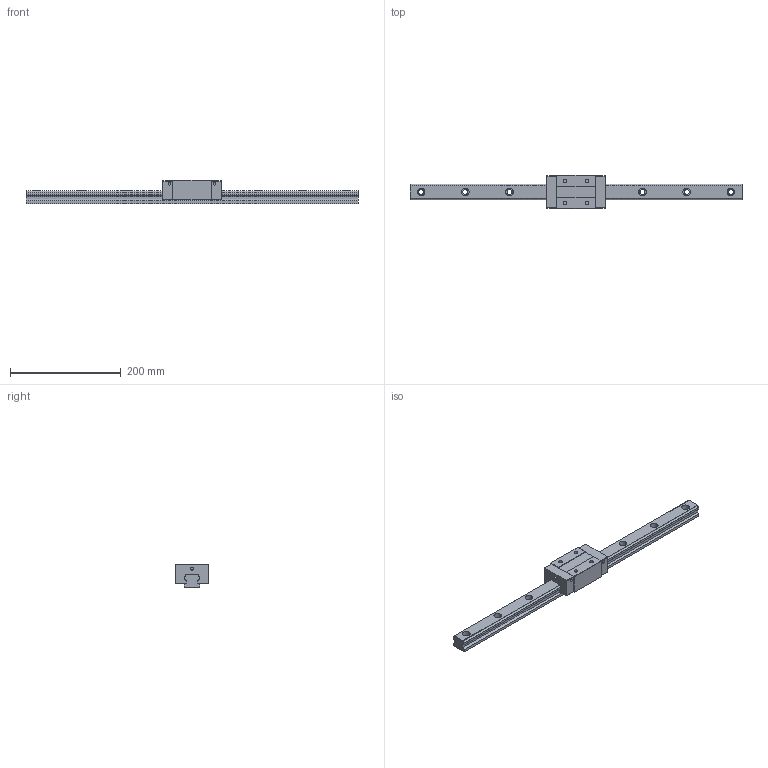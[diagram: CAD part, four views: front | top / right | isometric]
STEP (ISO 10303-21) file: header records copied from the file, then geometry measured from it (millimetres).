
FILE_DESCRIPTION (( 'STEP AP203' ), '1' );
FILE_NAME ('TRS30VN-ZN.STEP', '2024-06-12T09:09:03', ( '' ), ( '' ), 'SwSTEP 2.0', 'SolidWorks 2022', '' );
FILE_SCHEMA (( 'CONFIG_CONTROL_DESIGN' ));
Length unit declared in the file: millimetre
Products named in the file (1): TRS30VN-ZN
Bounding box: 600 x 60 x 42 mm (x, y, z)
Volume: 496265.9 mm3; surface area: 98347.8 mm2
Topology: 2 solids, 2 shells, 178 faces, 464 edges, 308 vertices
Faces by surface type: plane 90, cylinder 88
Entity records: 5619 total; most frequent: DIRECTION 998, CARTESIAN_POINT 951, ORIENTED_EDGE 928, EDGE_CURVE 464, AXIS2_PLACEMENT_3D 355, VERTEX_POINT 308, VECTOR 288, LINE 288
